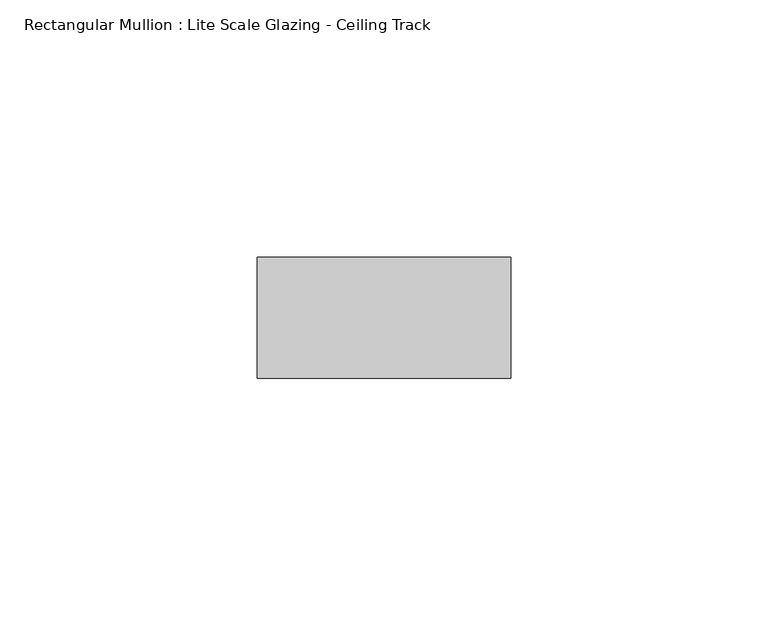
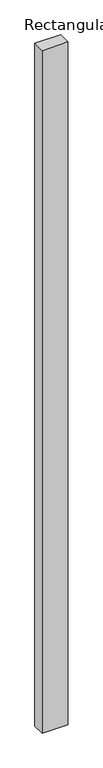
"""IFC4 building model written with IfcOpenShell, lengths in millimetres: member geometry, Rectangular Mullion : Lite Scale Glazing - Ceiling Track."""

from ifc_helpers import new_model, si_unit, frame, origin, place, context, project, spatial, polyline, outline, extrude, source, transform, mapped, element, save


def rectangular_mullion_lite_scale_glazing_ceiling_track_7f29f42d(model_context):
    return source(origin(), model_context, "Body", "SweptSolid", [
        extrude(outline(polyline([(-49.276, -11.7474999), (-49.276, 11.7474999), (0.0, 11.7474999), (0.0, -11.7474999), (-49.276, -11.7474999)])), frame((0.0, 0.0, -1371.6), z_axis=(0.0, 0.0, 1.0), x_axis=(1.0, 0.0, 0.0)), (0.0, 0.0, 1.0), 1371.6),
    ])


if __name__ == "__main__":
    model = new_model("IFC4")
    model_context = context("Model", 3, world=origin())
    ifc_project = project(units=[si_unit("LENGTHUNIT", "METRE", prefix="MILLI")], contexts=[model_context])
    site = spatial("IfcSite", under=ifc_project)
    building = spatial("IfcBuilding", under=site)
    placement = place(None, origin())
    rectangular_mullion_lite_scale_glazing_ceiling_track_shape = rectangular_mullion_lite_scale_glazing_ceiling_track_7f29f42d(model_context)
    element("IfcMember", 1, ObjectType="Rectangular Mullion : Lite Scale Glazing - Ceiling Track", at=placement, inside=building, context=model_context, shape_type="MappedRepresentation", body=[
        mapped(rectangular_mullion_lite_scale_glazing_ceiling_track_shape, transform((0.0, 0.0, 0.0), x_axis=(1.0, 0.0, 0.0), y_axis=(0.0, 1.0, 0.0), z_axis=(0.0, 0.0, 1.0))),
    ])
    save(model, "model.ifc")
